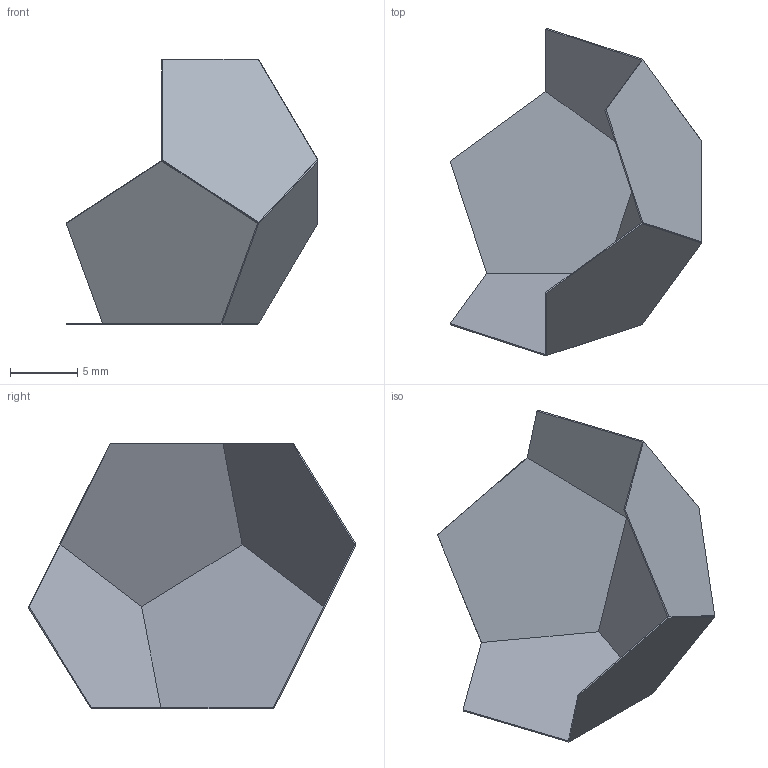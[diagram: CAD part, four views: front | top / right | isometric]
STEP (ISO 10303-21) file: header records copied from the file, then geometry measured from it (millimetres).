
FILE_DESCRIPTION((''),'2;1');
FILE_NAME('ASM0001_ASM','2022-04-23T15:04:07',('hocsas'),(''),'CREO PARAMETRIC BY PTC INC, 2020053','CREO PARAMETRIC BY PTC INC, 2020053','');
FILE_SCHEMA(('CONFIG_CONTROL_DESIGN'));
Length unit declared in the file: millimetre
Products named in the file (2): PRT0001; ASM0001_ASM
Assembly tree (6 placements, depth 2):
  ASM0001_ASM
    PRT0001  x6
Bounding box: 18.76 x 24.43 x 19.78 mm (x, y, z)
Volume: 80.2 mm3; surface area: 1631.4 mm2
Topology: 6 solids, 6 shells, 42 faces, 90 edges, 60 vertices
Faces by surface type: plane 42
Entity records: 296 total; most frequent: DIRECTION 45, CARTESIAN_POINT 40, ORIENTED_EDGE 30, VECTOR 15, LINE 15, AXIS2_PLACEMENT_3D 15, EDGE_CURVE 15, VERTEX_POINT 10
